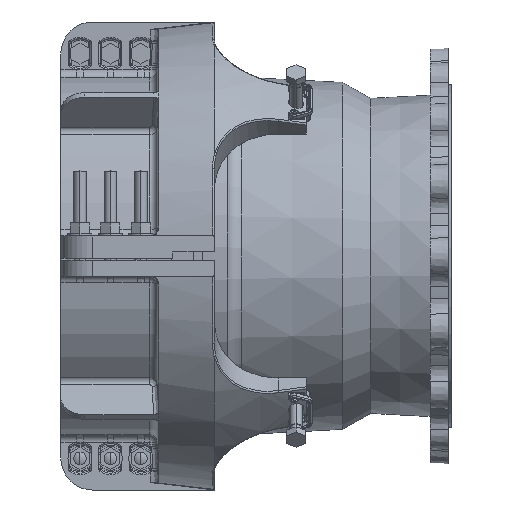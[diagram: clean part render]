
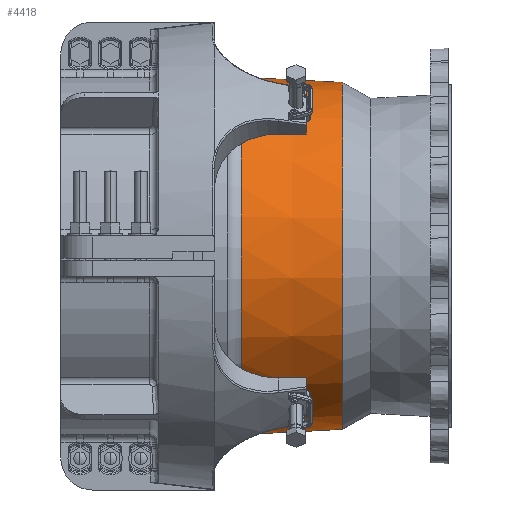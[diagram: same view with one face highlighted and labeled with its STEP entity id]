
A CAD part, left-side view. The second image highlights one B-rep face of the part: STEP entity #4418.
In plain terms, the highlighted conical face has half-angle 3 degrees and reference radius 220.343 mm.
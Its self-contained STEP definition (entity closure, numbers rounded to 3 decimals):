
#1025=CARTESIAN_POINT('',(0.,132.691,0.));
#1026=DIRECTION('',(0.,1.,0.));
#1027=DIRECTION('',(0.831,0.,-0.556));
#1028=AXIS2_PLACEMENT_3D('',#1025,#1026,#1027);
#1030=DIRECTION('',(-0.051,-0.999,0.01));
#1031=VECTOR('',#1030,126.661);
#1032=CARTESIAN_POINT('',(219.36,259.178,-43.633));
#1033=LINE('',#1032,#1031);
#1034=DIRECTION('',(0.044,0.999,-0.029));
#1035=VECTOR('',#1034,126.661);
#1036=CARTESIAN_POINT('',(180.453,132.691,-120.575));
#1037=LINE('',#1036,#1035);
#1053=CARTESIAN_POINT('',(0.,259.178,0.));
#1054=DIRECTION('',(0.,-1.,0.));
#1055=DIRECTION('',(0.981,0.,-0.195));
#1056=AXIS2_PLACEMENT_3D('',#1053,#1054,#1055);
#2950=CARTESIAN_POINT('',(219.36,259.178,-43.633));
#2951=CARTESIAN_POINT('',(212.859,132.691,-42.34));
#2952=VERTEX_POINT('',#2950);
#2953=VERTEX_POINT('',#2951);
#2954=CARTESIAN_POINT('',(180.453,132.691,-120.575));
#2955=CARTESIAN_POINT('',(185.965,259.178,-124.258));
#2956=VERTEX_POINT('',#2954);
#2957=VERTEX_POINT('',#2955);
#4404=CARTESIAN_POINT('',(0.,195.934,0.));
#4405=DIRECTION('',(0.,1.,0.));
#4406=DIRECTION('',(0.981,0.,-0.195));
#4407=AXIS2_PLACEMENT_3D('',#4404,#4405,#4406);
#4408=CONICAL_SURFACE('',#4407,220.343,3.);
#4410=ORIENTED_EDGE('',*,*,#4409,.T.);
#4411=ORIENTED_EDGE('',*,*,#4399,.F.);
#4413=ORIENTED_EDGE('',*,*,#4412,.T.);
#4415=ORIENTED_EDGE('',*,*,#4414,.F.);
#4416=EDGE_LOOP('',(#4410,#4411,#4413,#4415));
#4417=FACE_OUTER_BOUND('',#4416,.F.);
#4418=ADVANCED_FACE('',(#4417),#4408,.T.);
#1029=CIRCLE('',#1028,217.029);
#1057=CIRCLE('',#1056,223.658);
#4399=EDGE_CURVE('',#2956,#2953,#1029,.T.);
#4409=EDGE_CURVE('',#2952,#2953,#1033,.T.);
#4412=EDGE_CURVE('',#2956,#2957,#1037,.T.);
#4414=EDGE_CURVE('',#2952,#2957,#1057,.T.);
